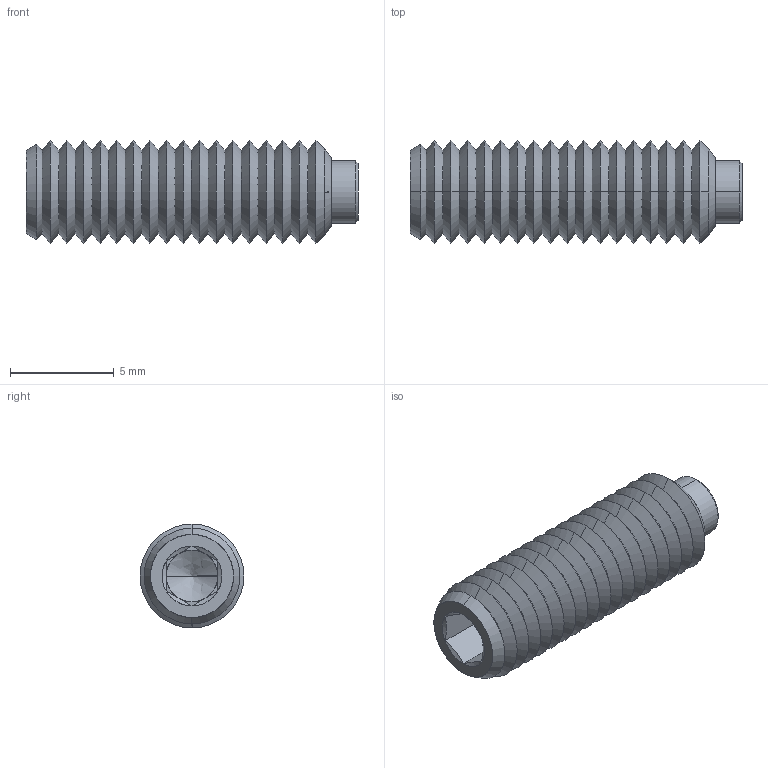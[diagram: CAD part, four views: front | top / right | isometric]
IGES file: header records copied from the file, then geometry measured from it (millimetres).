
Start section: SolidWorks IGES file using analytic representation for surfaces
Global section: file name: C:\Users\IanO\Desktop\P0120_v2_230406\P0120_v2_20230506_IGES\P0120.050-016.igs; native system: SolidWorks 2019; preprocessor: SolidWorks 2019; author: IanO; date: 230406.142325; units: millimetre
Bounding box: 16 x 5 x 5 mm (x, y, z)
Surface area: 420.1 mm2 (no closed solid volume)
Topology: 0 solids, 0 shells, 105 faces, 666 edges, 664 vertices
Faces by surface type: revolution 88, bspline 17
